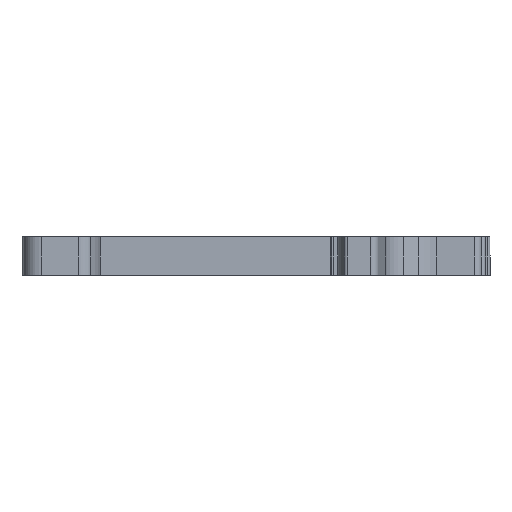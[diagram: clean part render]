
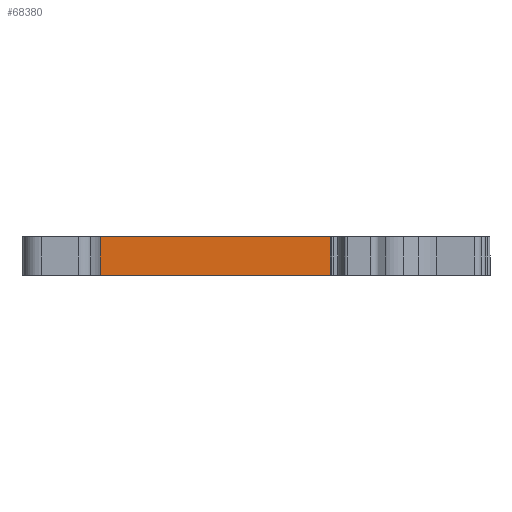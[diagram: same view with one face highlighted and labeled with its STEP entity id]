
A CAD part, front view. The second image highlights one B-rep face of the part: STEP entity #68380.
In plain terms, the highlighted planar face has unit normal (0, -1, 0).
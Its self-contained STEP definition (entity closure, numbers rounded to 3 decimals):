
#27900=CARTESIAN_POINT('',(15.1,0.,0.));
#27910=VERTEX_POINT('',#27900);
#28060=CARTESIAN_POINT('',(15.1,0.,-5.2))
;
#28070=VERTEX_POINT('',#28060);
#28100=CARTESIAN_POINT('',(15.1,0.,0.
));
#28110=DIRECTION('',(0.,0.,-1.));
#28120=VECTOR('',#28110,1.);
#28130=LINE('',#28100,#28120);
#28140=EDGE_CURVE('',#27910,#28070,#28130,.T.);
#68080=CARTESIAN_POINT('',(24.,0.,0.
));
#68090=DIRECTION('',(-0.,1.,0.));
#68100=DIRECTION('',(1.,0.,0.));
#68110=AXIS2_PLACEMENT_3D('',#68080,#68090,#68100);
#68120=PLANE('',#68110);
#68130=ORIENTED_EDGE('',*,*,#28140,.F.);
#68140=CARTESIAN_POINT('',(1.738,0.,-5.2));
#68150=DIRECTION('',(1.,0.,0.));
#68160=VECTOR('',#68150,1.);
#68170=LINE('',#68140,#68160);
#68180=CARTESIAN_POINT('',(-16.3,0.,-5.2)
);
#68190=VERTEX_POINT('',#68180);
#68200=EDGE_CURVE('',#68190,#28070,#68170,.T.);
#68210=ORIENTED_EDGE('',*,*,#68200,.T.);
#68220=CARTESIAN_POINT('',(-16.3,0.,
0.));
#68230=DIRECTION('',(0.,0.,-1.));
#68240=VECTOR('',#68230,1.);
#68250=LINE('',#68220,#68240);
#68260=CARTESIAN_POINT('',(-16.3,0.,
0.));
#68270=VERTEX_POINT('',#68260);
#68280=EDGE_CURVE('',#68270,#68190,#68250,.T.);
#68290=ORIENTED_EDGE('',*,*,#68280,.T.);
#68300=CARTESIAN_POINT('',(1.738,0.,
0.));
#68310=DIRECTION('',(1.,0.,0.));
#68320=VECTOR('',#68310,1.);
#68330=LINE('',#68300,#68320);
#68340=EDGE_CURVE('',#68270,#27910,#68330,.T.);
#68350=ORIENTED_EDGE('',*,*,#68340,.F.);
#68360=EDGE_LOOP('',(#68350,#68290,#68210,#68130));
#68370=FACE_OUTER_BOUND('',#68360,.T.);
#68380=ADVANCED_FACE('',(#68370),#68120,.F.);
